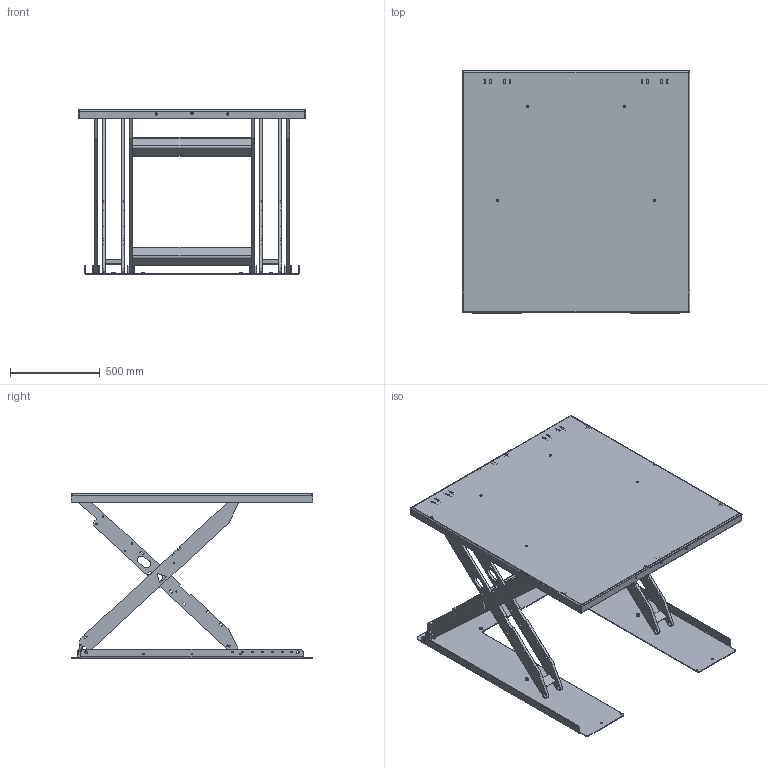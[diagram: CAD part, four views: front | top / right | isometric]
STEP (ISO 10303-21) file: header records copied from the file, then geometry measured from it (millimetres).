
FILE_DESCRIPTION(/* description */ ('TCL 2000 GB 1350x1270'),/* implementation_level */ '2;1');
FILE_NAME(/* name */ 'C:\Autodesk_VaultWork\Ritningar\Exporterade modeller\TCL 2000GB - (601343)\601343_Raised.stp',/* time_stamp */ '2020-07-06T09:39:15+02:00',/* author */ ('ANDMO'),/* organization */ (''),/* preprocessor_version */ 'ST-DEVELOPER v16.5',/* originating_system */ 'Autodesk Inventor 2017',/* authorisation */ '');
FILE_SCHEMA (('AUTOMOTIVE_DESIGN { 1 0 10303 214 3 1 1 }'));
Length unit declared in the file: millimetre
Products named in the file (18): 601343; 601345; 601346; 80476; 601316; 36533; 36534; 36538-2; 602757; 601260; 36532; 82149-663; 601344; 602169; 45411; ISO 4014 - M6 x 35; 44572; 45087
Assembly tree (49 placements, depth 5):
  601343
    601345
      601346
      45411  x8
      80476  x4
    601316
      36533  x2
        36534
        36538-2
      602757
        601260  x2
          36532
        82149-663  x2
    601344
      602169
      45411  x8
      ISO 4014 - M6 x 35  x6
      44572  x2
      45087  x4
Bounding box: 1270 x 1350 x 920 mm (x, y, z)
Volume: 28787107.4 mm3; surface area: 8904632 mm2
Topology: 46 solids, 46 shells, 2243 faces, 6272 edges, 4153 vertices
Faces by surface type: cylinder 1253, plane 896, cone 58, bspline 36
Full cylindrical faces by diameter (mm): 5.5 x8, 6 x18, 7.4 x12, 8.376 x4, 8.5 x4, 8.88 x6, 9 x6, 12 x4, 12.5 x6, 13 x9, 15 x16, 16 x4, 26.2 x8
Entity records: 33662 total; most frequent: CARTESIAN_POINT 6480, DIRECTION 5736, ORIENTED_EDGE 5470, EDGE_CURVE 2735, AXIS2_PLACEMENT_3D 2067, VERTEX_POINT 1843, LINE 1602, VECTOR 1602
